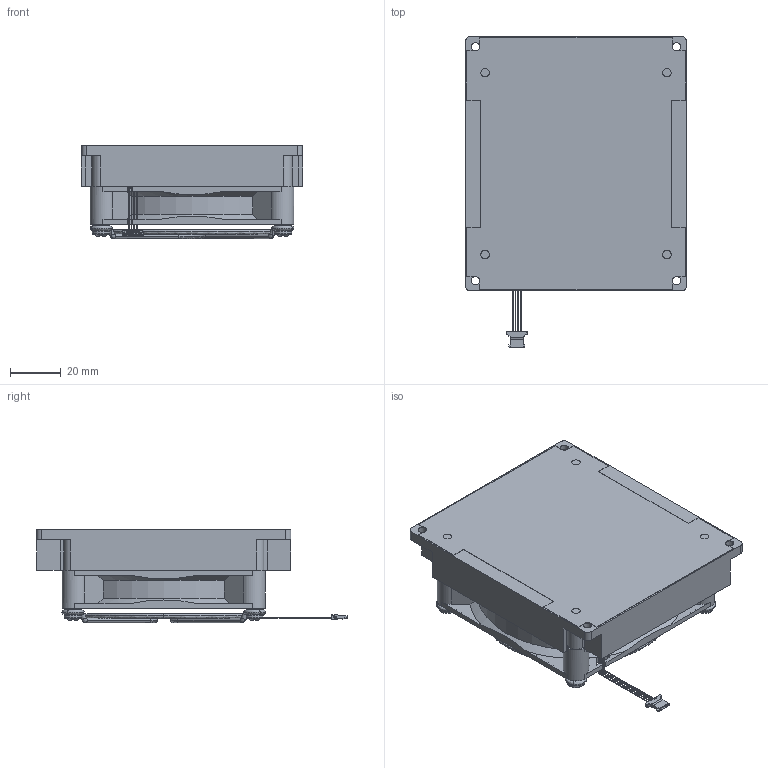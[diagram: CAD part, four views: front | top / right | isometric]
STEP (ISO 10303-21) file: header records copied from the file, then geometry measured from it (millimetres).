
FILE_DESCRIPTION (( 'STEP AP214' ), '1' );
FILE_NAME ('CTIA-00196(0.04) Assembly for Website-Jul20.STEP', '2021-07-21T17:46:40', ( '' ), ( '' ), 'SwSTEP 2.0', 'SolidWorks 2021', '' );
FILE_SCHEMA (( 'AUTOMOTIVE_DESIGN' ));
Length unit declared in the file: millimetre
Products named in the file (18): AA8015FM12B-PWM-10REV01_2; AA8015FM12B-PWM-10_ASM_1_ASM; 80MMFAN_GUARD_1_1_2_6; 80MMFAN_GUARD_1_1_2_4; 80MMFAN_GUARD_1_1_2_5; M4X32; CTIA-00196(0.04) Assembly for Website-Jul20; STANDOFF (0.04); 80MMFAN_GUARD_1_1_2_3; 80MMFAN_GUARD_1_1_2_7; 511460400_1; 80MMFAN_GUARD_1_1_2_2; AA8015FM12B-PWM-10_20190222_ASM; 80MMFAN_GUARD_1_1_2_1; 80MMFAN_GUARD_1_1_2_ASM; ASM0013_ASM; CTIA-00196(0.04) for Website; Thermal Gap Pad (0.04), Xavier Heat Sink_Altered Size w_Holes
Assembly tree (23 placements, depth 4):
  CTIA-00196(0.04) Assembly for Website-Jul20
    CTIA-00196(0.04) for Website
    STANDOFF (0.04)  x4
    ASM0013_ASM
      80MMFAN_GUARD_1_1_2_ASM
        80MMFAN_GUARD_1_1_2_1
        80MMFAN_GUARD_1_1_2_2
        80MMFAN_GUARD_1_1_2_3
        80MMFAN_GUARD_1_1_2_4
        80MMFAN_GUARD_1_1_2_5
        80MMFAN_GUARD_1_1_2_6
        80MMFAN_GUARD_1_1_2_7
    M4X32  x4
    AA8015FM12B-PWM-10_20190222_ASM
      AA8015FM12B-PWM-10_ASM_1_ASM
        AA8015FM12B-PWM-10REV01_2
        511460400_1
    Thermal Gap Pad (0.04), Xavier Heat Sink_Altered Size w_Holes
Bounding box: 87 x 122.2 x 36.73 mm (x, y, z)
Volume: 156258.4 mm3; surface area: 75933.1 mm2
Topology: 19 solids, 19 shells, 1689 faces, 4196 edges, 2561 vertices
Faces by surface type: cone 748, plane 513, cylinder 293, bspline 135
Entity records: 39032 total; most frequent: CARTESIAN_POINT 13835, ORIENTED_EDGE 5430, DIRECTION 4659, EDGE_CURVE 2715, VERTEX_POINT 1727, AXIS2_PLACEMENT_3D 1573, VECTOR 1513, LINE 1513
